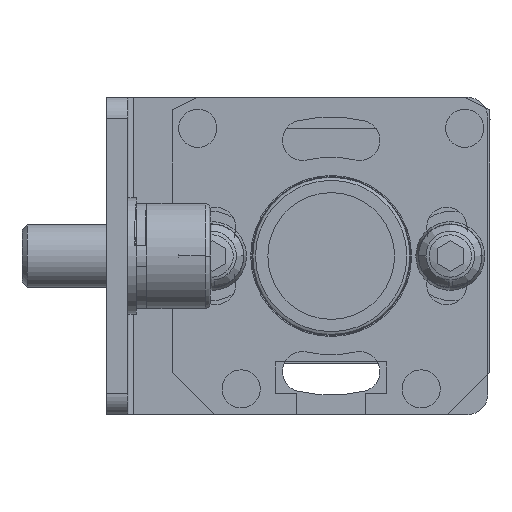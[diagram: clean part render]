
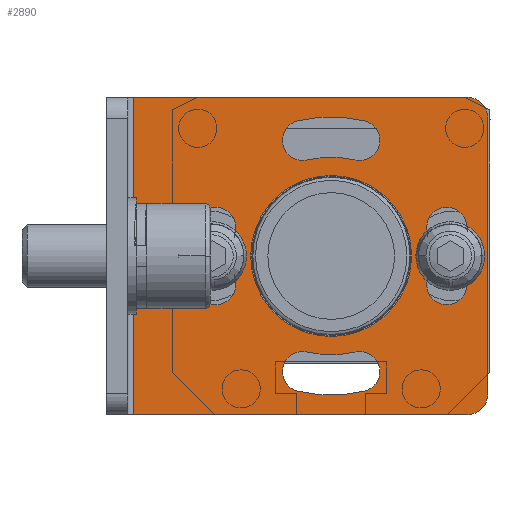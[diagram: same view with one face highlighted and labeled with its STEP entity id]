
A CAD part, front view. The second image highlights one B-rep face of the part: STEP entity #2890.
In plain terms, the highlighted planar face has unit normal (0, -1, 0).
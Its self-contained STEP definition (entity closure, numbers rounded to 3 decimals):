
#692=LINE('',#40684,#1452);
#697=LINE('',#40696,#1457);
#703=LINE('',#40712,#1463);
#707=LINE('',#40736,#1467);
#1452=VECTOR('',#13263,1.);
#1457=VECTOR('',#13272,1.);
#1463=VECTOR('',#13290,1.);
#1467=VECTOR('',#13320,1.);
#1962=PLANE('',#11082);
#2299=FACE_BOUND('',#4309,.T.);
#2300=FACE_BOUND('',#4310,.T.);
#2301=FACE_BOUND('',#4311,.T.);
#2302=FACE_BOUND('',#4312,.T.);
#2303=FACE_BOUND('',#4313,.T.);
#2304=FACE_BOUND('',#4314,.T.);
#2890=ADVANCED_FACE('',(#2299,#2300,#2301,#2302,#2303,#2304),#1962,.T.);
#4309=EDGE_LOOP('',(#6781,#6782,#6783,#6784));
#4310=EDGE_LOOP('',(#6785,#6786,#6787,#6788));
#4311=EDGE_LOOP('',(#6789,#6790,#6791,#6792));
#4312=EDGE_LOOP('',(#6793));
#4313=EDGE_LOOP('',(#6794,#6795,#6796,#6797));
#4314=EDGE_LOOP('',(#6798,#6799,#6800,#6801,#6802,#6803));
#6781=ORIENTED_EDGE('',*,*,#9603,.T.);
#6782=ORIENTED_EDGE('',*,*,#9604,.T.);
#6783=ORIENTED_EDGE('',*,*,#9542,.T.);
#6784=ORIENTED_EDGE('',*,*,#9605,.T.);
#6785=ORIENTED_EDGE('',*,*,#9606,.T.);
#6786=ORIENTED_EDGE('',*,*,#9546,.T.);
#6787=ORIENTED_EDGE('',*,*,#9607,.T.);
#6788=ORIENTED_EDGE('',*,*,#9550,.T.);
#6789=ORIENTED_EDGE('',*,*,#9608,.T.);
#6790=ORIENTED_EDGE('',*,*,#9554,.T.);
#6791=ORIENTED_EDGE('',*,*,#9609,.T.);
#6792=ORIENTED_EDGE('',*,*,#9558,.T.);
#6793=ORIENTED_EDGE('',*,*,#9563,.T.);
#6794=ORIENTED_EDGE('',*,*,#9610,.T.);
#6795=ORIENTED_EDGE('',*,*,#9611,.T.);
#6796=ORIENTED_EDGE('',*,*,#9612,.T.);
#6797=ORIENTED_EDGE('',*,*,#9564,.T.);
#6798=ORIENTED_EDGE('',*,*,#9613,.T.);
#6799=ORIENTED_EDGE('',*,*,#9614,.T.);
#6800=ORIENTED_EDGE('',*,*,#9598,.F.);
#6801=ORIENTED_EDGE('',*,*,#9584,.T.);
#6802=ORIENTED_EDGE('',*,*,#9590,.F.);
#6803=ORIENTED_EDGE('',*,*,#9615,.T.);
#8262=VERTEX_POINT('',#40594);
#8263=VERTEX_POINT('',#40595);
#8266=VERTEX_POINT('',#40603);
#8267=VERTEX_POINT('',#40604);
#8270=VERTEX_POINT('',#40612);
#8271=VERTEX_POINT('',#40613);
#8274=VERTEX_POINT('',#40621);
#8275=VERTEX_POINT('',#40622);
#8278=VERTEX_POINT('',#40630);
#8279=VERTEX_POINT('',#40631);
#8283=VERTEX_POINT('',#40641);
#8284=VERTEX_POINT('',#40644);
#8285=VERTEX_POINT('',#40645);
#8298=VERTEX_POINT('',#40681);
#8299=VERTEX_POINT('',#40683);
#8304=VERTEX_POINT('',#40695);
#8309=VERTEX_POINT('',#40713);
#8312=VERTEX_POINT('',#40723);
#8313=VERTEX_POINT('',#40724);
#8314=VERTEX_POINT('',#40732);
#8315=VERTEX_POINT('',#40734);
#8316=VERTEX_POINT('',#40737);
#8317=VERTEX_POINT('',#40738);
#9542=EDGE_CURVE('',#8262,#8263,#10244,.T.);
#9546=EDGE_CURVE('',#8266,#8267,#10246,.T.);
#9550=EDGE_CURVE('',#8270,#8271,#10248,.T.);
#9554=EDGE_CURVE('',#8274,#8275,#10250,.T.);
#9558=EDGE_CURVE('',#8278,#8279,#10252,.T.);
#9563=EDGE_CURVE('',#8283,#8283,#10255,.T.);
#9564=EDGE_CURVE('',#8284,#8285,#10256,.T.);
#9584=EDGE_CURVE('',#8298,#8299,#692,.T.);
#9590=EDGE_CURVE('',#8304,#8299,#697,.T.);
#9598=EDGE_CURVE('',#8298,#8309,#703,.T.);
#9603=EDGE_CURVE('',#8312,#8313,#10268,.T.);
#9604=EDGE_CURVE('',#8313,#8262,#10269,.T.);
#9605=EDGE_CURVE('',#8263,#8312,#10270,.T.);
#9606=EDGE_CURVE('',#8271,#8266,#10271,.T.);
#9607=EDGE_CURVE('',#8267,#8270,#10272,.T.);
#9608=EDGE_CURVE('',#8279,#8274,#10273,.T.);
#9609=EDGE_CURVE('',#8275,#8278,#10274,.T.);
#9610=EDGE_CURVE('',#8285,#8314,#10275,.T.);
#9611=EDGE_CURVE('',#8314,#8315,#10276,.T.);
#9612=EDGE_CURVE('',#8315,#8284,#10277,.T.);
#9613=EDGE_CURVE('',#8316,#8317,#707,.T.);
#9614=EDGE_CURVE('',#8317,#8309,#10278,.T.);
#9615=EDGE_CURVE('',#8304,#8316,#10279,.T.);
#10244=CIRCLE('',#11028,1.9);
#10246=CIRCLE('',#11031,13.15);
#10248=CIRCLE('',#11034,9.35);
#10250=CIRCLE('',#11037,1.9);
#10252=CIRCLE('',#11040,1.9);
#10255=CIRCLE('',#11044,7.6);
#10256=CIRCLE('',#11046,1.9);
#10268=CIRCLE('',#11070,1.9);
#10269=CIRCLE('',#11071,13.15);
#10270=CIRCLE('',#11072,9.35);
#10271=CIRCLE('',#11073,1.9);
#10272=CIRCLE('',#11074,1.9);
#10273=CIRCLE('',#11075,13.15);
#10274=CIRCLE('',#11076,9.35);
#10275=CIRCLE('',#11077,13.15);
#10276=CIRCLE('',#11078,1.9);
#10277=CIRCLE('',#11079,9.35);
#10278=CIRCLE('',#11080,2.);
#10279=CIRCLE('',#11081,2.);
#11028=AXIS2_PLACEMENT_3D('',#40593,#13179,#13180);
#11031=AXIS2_PLACEMENT_3D('',#40602,#13187,#13188);
#11034=AXIS2_PLACEMENT_3D('',#40611,#13195,#13196);
#11037=AXIS2_PLACEMENT_3D('',#40620,#13203,#13204);
#11040=AXIS2_PLACEMENT_3D('',#40629,#13211,#13212);
#11044=AXIS2_PLACEMENT_3D('',#40640,#13221,#13222);
#11046=AXIS2_PLACEMENT_3D('',#40643,#13225,#13226);
#11070=AXIS2_PLACEMENT_3D('',#40722,#13300,#13301);
#11071=AXIS2_PLACEMENT_3D('',#40725,#13302,#13303);
#11072=AXIS2_PLACEMENT_3D('',#40726,#13304,#13305);
#11073=AXIS2_PLACEMENT_3D('',#40727,#13306,#13307);
#11074=AXIS2_PLACEMENT_3D('',#40728,#13308,#13309);
#11075=AXIS2_PLACEMENT_3D('',#40729,#13310,#13311);
#11076=AXIS2_PLACEMENT_3D('',#40730,#13312,#13313);
#11077=AXIS2_PLACEMENT_3D('',#40731,#13314,#13315);
#11078=AXIS2_PLACEMENT_3D('',#40733,#13316,#13317);
#11079=AXIS2_PLACEMENT_3D('',#40735,#13318,#13319);
#11080=AXIS2_PLACEMENT_3D('',#40739,#13321,#13322);
#11081=AXIS2_PLACEMENT_3D('',#40740,#13323,#13324);
#11082=AXIS2_PLACEMENT_3D('',#40741,#13325,#13326);
#13179=DIRECTION('',(0.,1.,0.));
#13180=DIRECTION('',(0.,0.,1.));
#13187=DIRECTION('',(0.,1.,0.));
#13188=DIRECTION('',(0.,0.,1.));
#13195=DIRECTION('',(0.,-1.,0.));
#13196=DIRECTION('',(0.,0.,1.));
#13203=DIRECTION('',(0.,1.,0.));
#13204=DIRECTION('',(0.,0.,1.));
#13211=DIRECTION('',(0.,1.,0.));
#13212=DIRECTION('',(0.,0.,1.));
#13221=DIRECTION('',(0.,1.,0.));
#13222=DIRECTION('',(0.,0.,1.));
#13225=DIRECTION('',(0.,1.,0.));
#13226=DIRECTION('',(0.,0.,1.));
#13263=DIRECTION('',(0.,0.,-1.));
#13272=DIRECTION('',(-1.,0.,0.));
#13290=DIRECTION('',(1.,0.,0.));
#13300=DIRECTION('',(0.,1.,0.));
#13301=DIRECTION('',(0.,0.,1.));
#13302=DIRECTION('',(0.,1.,0.));
#13303=DIRECTION('',(0.,0.,1.));
#13304=DIRECTION('',(0.,-1.,0.));
#13305=DIRECTION('',(0.,0.,1.));
#13306=DIRECTION('',(0.,1.,0.));
#13307=DIRECTION('',(0.,0.,1.));
#13308=DIRECTION('',(0.,1.,0.));
#13309=DIRECTION('',(0.,0.,1.));
#13310=DIRECTION('',(0.,1.,0.));
#13311=DIRECTION('',(0.,0.,1.));
#13312=DIRECTION('',(0.,-1.,0.));
#13313=DIRECTION('',(0.,0.,1.));
#13314=DIRECTION('',(0.,1.,0.));
#13315=DIRECTION('',(0.,0.,1.));
#13316=DIRECTION('',(0.,1.,0.));
#13317=DIRECTION('',(0.,0.,1.));
#13318=DIRECTION('',(0.,-1.,0.));
#13319=DIRECTION('',(0.,0.,1.));
#13320=DIRECTION('',(0.,0.,1.));
#13321=DIRECTION('',(0.,-1.,0.));
#13322=DIRECTION('',(0.,0.,-1.));
#13323=DIRECTION('',(0.,-1.,0.));
#13324=DIRECTION('',(0.,0.,1.));
#13325=DIRECTION('',(0.,-1.,0.));
#13326=DIRECTION('',(1.,0.,0.));
#40593=CARTESIAN_POINT('',(-110.921,-258.,2.851));
#40594=CARTESIAN_POINT('',(-112.765,-258.,3.307));
#40595=CARTESIAN_POINT('',(-109.077,-258.,2.395));
#40602=CARTESIAN_POINT('',(-100.,-258.,0.15));
#40603=CARTESIAN_POINT('',(-103.157,-258.,12.915));
#40604=CARTESIAN_POINT('',(-96.843,-258.,12.915));
#40611=CARTESIAN_POINT('',(-100.,-258.,0.15));
#40612=CARTESIAN_POINT('',(-97.755,-258.,9.227));
#40613=CARTESIAN_POINT('',(-102.245,-258.,9.227));
#40620=CARTESIAN_POINT('',(-102.701,-258.,-10.771));
#40621=CARTESIAN_POINT('',(-103.157,-258.,-12.615));
#40622=CARTESIAN_POINT('',(-102.245,-258.,-8.927));
#40629=CARTESIAN_POINT('',(-97.299,-258.,-10.771));
#40630=CARTESIAN_POINT('',(-97.755,-258.,-8.927));
#40631=CARTESIAN_POINT('',(-96.843,-258.,-12.615));
#40640=CARTESIAN_POINT('',(-100.,-258.,0.15));
#40641=CARTESIAN_POINT('',(-100.,-258.,7.75));
#40643=CARTESIAN_POINT('',(-89.079,-258.,2.851));
#40644=CARTESIAN_POINT('',(-90.923,-258.,2.395));
#40645=CARTESIAN_POINT('',(-87.235,-258.,3.307));
#40681=CARTESIAN_POINT('',(-118.7,-258.,15.15));
#40683=CARTESIAN_POINT('',(-118.7,-258.,-14.85));
#40684=CARTESIAN_POINT('',(-118.7,-258.,15.15));
#40695=CARTESIAN_POINT('',(-87.2,-258.,-14.85));
#40696=CARTESIAN_POINT('',(-118.7,-258.,-14.85));
#40712=CARTESIAN_POINT('',(-118.7,-258.,15.15));
#40713=CARTESIAN_POINT('',(-87.2,-258.,15.15));
#40722=CARTESIAN_POINT('',(-110.921,-258.,-2.551));
#40723=CARTESIAN_POINT('',(-109.077,-258.,-2.095));
#40724=CARTESIAN_POINT('',(-112.765,-258.,-3.007));
#40725=CARTESIAN_POINT('',(-100.,-258.,0.15));
#40726=CARTESIAN_POINT('',(-100.,-258.,0.15));
#40727=CARTESIAN_POINT('',(-102.701,-258.,11.071));
#40728=CARTESIAN_POINT('',(-97.299,-258.,11.071));
#40729=CARTESIAN_POINT('',(-100.,-258.,0.15));
#40730=CARTESIAN_POINT('',(-100.,-258.,0.15));
#40731=CARTESIAN_POINT('',(-100.,-258.,0.15));
#40732=CARTESIAN_POINT('',(-87.235,-258.,-3.007));
#40733=CARTESIAN_POINT('',(-89.079,-258.,-2.551));
#40734=CARTESIAN_POINT('',(-90.923,-258.,-2.095));
#40735=CARTESIAN_POINT('',(-100.,-258.,0.15));
#40736=CARTESIAN_POINT('',(-85.2,-258.,15.15));
#40737=CARTESIAN_POINT('',(-85.2,-258.,-12.85));
#40738=CARTESIAN_POINT('',(-85.2,-258.,13.15));
#40739=CARTESIAN_POINT('',(-87.2,-258.,13.15));
#40740=CARTESIAN_POINT('',(-87.2,-258.,-12.85));
#40741=CARTESIAN_POINT('',(-85.2,-258.,15.15));
